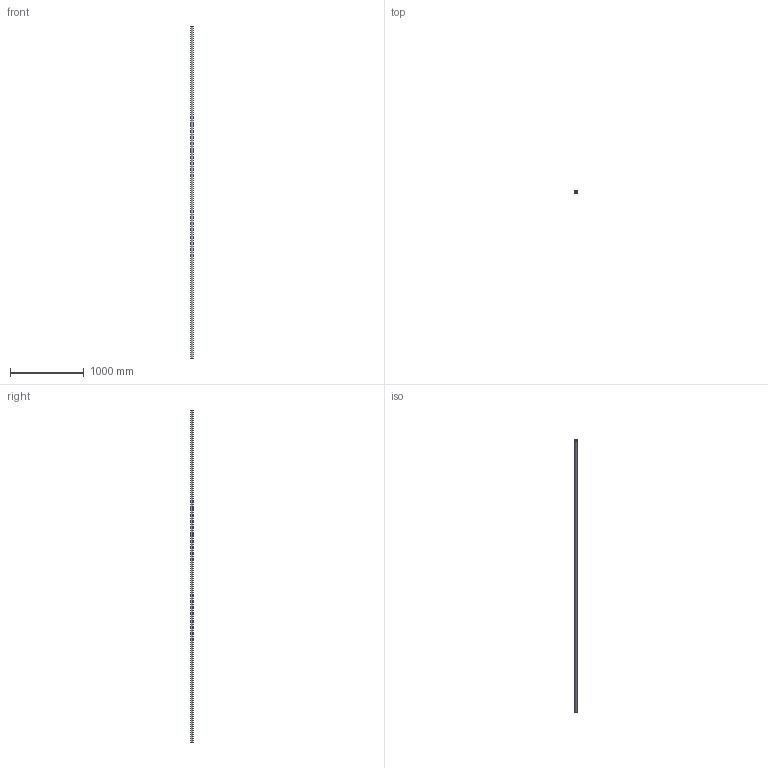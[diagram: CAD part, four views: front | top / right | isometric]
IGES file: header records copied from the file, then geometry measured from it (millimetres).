
Start section: SolidWorks IGES file using analytic representation for surfaces
Global section: file name: C:\Users\IanO\Desktop\L1771_v2\L1771.40_v2\L1771.40_v2_20230705_IGES\L1771.40-4500.igs; native system: SolidWorks 2019; preprocessor: SolidWorks 2019; author: IanO; date: 230705.162544; units: millimetre
Bounding box: 40 x 40 x 4500 mm (x, y, z)
Surface area: 962609.1 mm2 (no closed solid volume)
Topology: 0 solids, 0 shells, 6 faces, 272 edges, 272 vertices
Faces by surface type: revolution 4, bspline 2
